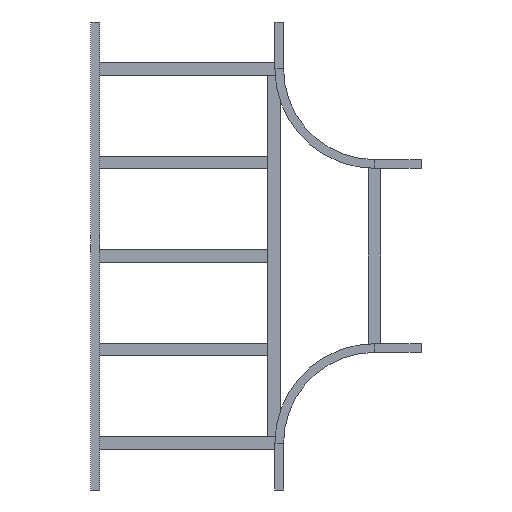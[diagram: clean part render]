
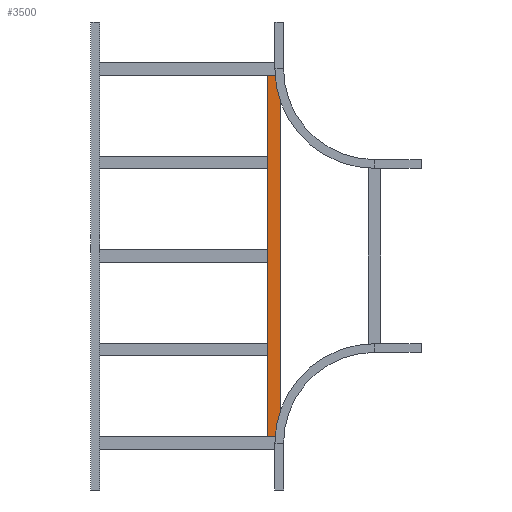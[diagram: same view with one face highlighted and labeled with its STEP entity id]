
A CAD part, front view. The second image highlights one B-rep face of the part: STEP entity #3500.
In plain terms, the highlighted planar face has unit normal (0, -1, 0).
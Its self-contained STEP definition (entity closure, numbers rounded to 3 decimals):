
#3 = VERTEX_POINT ( 'NONE', #3008 ) ;
#32 = CARTESIAN_POINT ( 'NONE',  ( 579.75, 0., 20.25 ) ) ;
#51 = FACE_OUTER_BOUND ( 'NONE', #2897, .T. ) ;
#211 = CARTESIAN_POINT ( 'NONE',  ( 579.75, 0., 20.25 ) ) ;
#213 = ORIENTED_EDGE ( 'NONE', *, *, #965, .F. ) ;
#354 = DIRECTION ( 'NONE',  ( 0., 0., 1. ) ) ;
#422 = ORIENTED_EDGE ( 'NONE', *, *, #3715, .T. ) ;
#465 = DIRECTION ( 'NONE',  ( 0., 0., -1. ) ) ;
#575 = CARTESIAN_POINT ( 'NONE',  ( 579.75, 0., -20.25 ) ) ;
#621 = VERTEX_POINT ( 'NONE', #575 ) ;
#738 = CARTESIAN_POINT ( 'NONE',  ( 579.75, 0., 20.25 ) ) ;
#965 = EDGE_CURVE ( 'NONE', #621, #2992, #3651, .T. ) ;
#1033 = DIRECTION ( 'NONE',  ( -1., 0., 0. ) ) ;
#1195 = VECTOR ( 'NONE', #465, 1000. ) ;
#1342 = VERTEX_POINT ( 'NONE', #211 ) ;
#1367 = DIRECTION ( 'NONE',  ( 0., 1., 0. ) ) ;
#1376 = EDGE_CURVE ( 'NONE', #1342, #621, #4295, .T. ) ;
#1407 = VECTOR ( 'NONE', #1033, 1000. ) ;
#1431 = PLANE ( 'NONE',  #2240 ) ;
#1781 = VECTOR ( 'NONE', #1911, 1000. ) ;
#1911 = DIRECTION ( 'NONE',  ( -1., 0., 0. ) ) ;
#2130 = LINE ( 'NONE', #2508, #1195 ) ;
#2237 = CARTESIAN_POINT ( 'NONE',  ( 579.75, 0., -20.25 ) ) ;
#2240 = AXIS2_PLACEMENT_3D ( 'NONE', #32, #1367, #354 ) ;
#2466 = VECTOR ( 'NONE', #3892, 1000. ) ;
#2508 = CARTESIAN_POINT ( 'NONE',  ( -579.75, 0., 20.25 ) ) ;
#2586 = ORIENTED_EDGE ( 'NONE', *, *, #1376, .F. ) ;
#2721 = EDGE_CURVE ( 'NONE', #1342, #3, #3032, .T. ) ;
#2897 = EDGE_LOOP ( 'NONE', ( #422, #213, #2586, #3977 ) ) ;
#2992 = VERTEX_POINT ( 'NONE', #3132 ) ;
#3008 = CARTESIAN_POINT ( 'NONE',  ( -579.75, 0., 20.25 ) ) ;
#3032 = LINE ( 'NONE', #738, #1407 ) ;
#3132 = CARTESIAN_POINT ( 'NONE',  ( -579.75, 0., -20.25 ) ) ;
#3291 = CARTESIAN_POINT ( 'NONE',  ( 579.75, 0., 20.25 ) ) ;
#3500 = ADVANCED_FACE ( 'NONE', ( #51 ), #1431, .F. ) ;
#3651 = LINE ( 'NONE', #2237, #1781 ) ;
#3715 = EDGE_CURVE ( 'NONE', #3, #2992, #2130, .T. ) ;
#3892 = DIRECTION ( 'NONE',  ( 0., 0., -1. ) ) ;
#3977 = ORIENTED_EDGE ( 'NONE', *, *, #2721, .T. ) ;
#4295 = LINE ( 'NONE', #3291, #2466 ) ;
